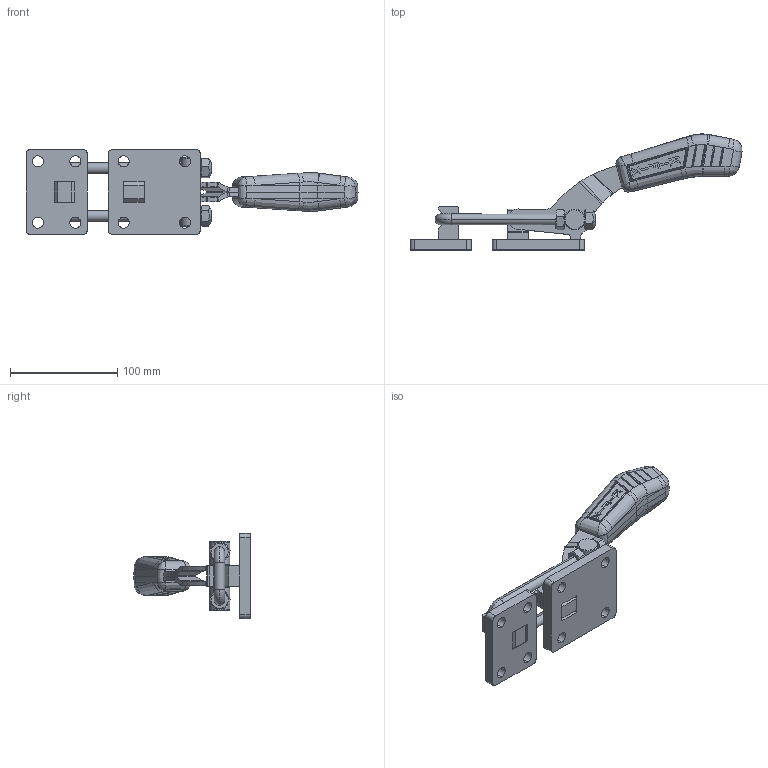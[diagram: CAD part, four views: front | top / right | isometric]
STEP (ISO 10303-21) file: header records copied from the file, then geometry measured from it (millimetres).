
FILE_DESCRIPTION (( 'STEP AP203' ), '1' );
FILE_NAME ('KF-375.STEP', '2018-06-19T14:04:59', ( 'Ricardo' ), ( '' ), 'SwSTEP 2.0', 'SolidWorks 2018', '' );
FILE_SCHEMA (( 'CONFIG_CONTROL_DESIGN' ));
Length unit declared in the file: millimetre
Products named in the file (13): 16.20044; 03.20031; 11.50019; 02.10018; 11.50003; 02.10017; 07.60003; 15.10037; KF-375; 06.50017; 15.10038; 01.10070_Direita; 01.10070_Esquerda
Assembly tree (14 placements, depth 2):
  KF-375
    02.10018
    02.10017
    15.10037
    15.10038
    01.10070_Direita
    01.10070_Esquerda
    16.20044
    03.20031
    11.50019  x2
    11.50003  x2
    07.60003
    06.50017
Bounding box: 310.07 x 108.49 x 79.5 mm (x, y, z)
Volume: 306954.4 mm3; surface area: 101627.9 mm2
Topology: 14 solids, 14 shells, 676 faces, 1726 edges, 1086 vertices
Faces by surface type: plane 232, cylinder 200, bspline 151, sphere 48, cone 38, torus 7
Entity records: 24780 total; most frequent: CARTESIAN_POINT 9325, ORIENTED_EDGE 3244, DIRECTION 2463, EDGE_CURVE 1622, VERTEX_POINT 1026, AXIS2_PLACEMENT_3D 954, EDGE_LOOP 706, ADVANCED_FACE 642
